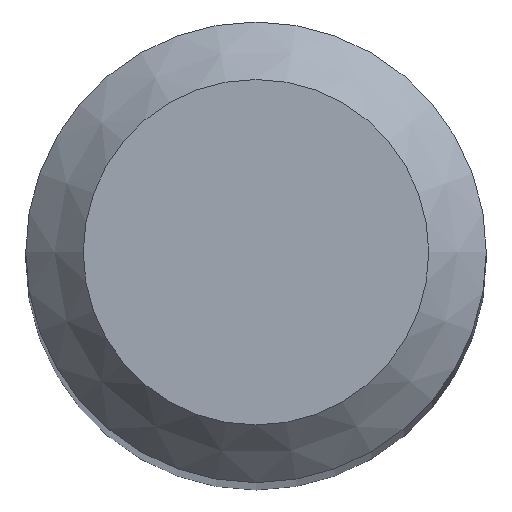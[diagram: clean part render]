
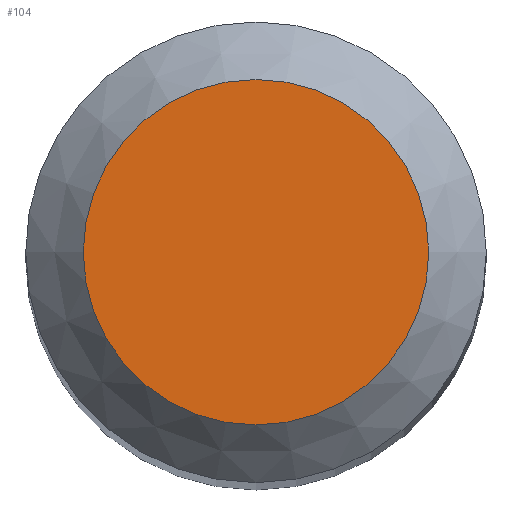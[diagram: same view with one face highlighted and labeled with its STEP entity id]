
A CAD part, top view. The second image highlights one B-rep face of the part: STEP entity #104.
In plain terms, the highlighted planar face has unit normal (0, 0, 1).
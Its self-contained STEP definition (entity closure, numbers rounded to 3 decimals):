
#88=CARTESIAN_POINT('',(1.5,0.0,70.0));
#89=DIRECTION('',(0.0,0.0,1.0));
#90=DIRECTION('',(1.0,0.0,0.0));
#91=AXIS2_PLACEMENT_3D('',#88,#89,#90);
#92=PLANE('',#91);
#93=CARTESIAN_POINT('',(-1.5,0.0,70.0));
#94=VERTEX_POINT('',#93);
#95=CARTESIAN_POINT('',(0.0,0.0,70.0));
#96=DIRECTION('',(0.0,0.0,-1.0));
#97=DIRECTION('',(-1.0,0.0,0.0));
#98=AXIS2_PLACEMENT_3D('',#95,#96,#97);
#99=CIRCLE('',#98,1.5);
#100=EDGE_CURVE('',#94,#94,#99,.T.);
#101=ORIENTED_EDGE('',*,*,#100,.F.);
#102=EDGE_LOOP('',(#101));
#103=FACE_OUTER_BOUND('',#102,.T.);
#104=ADVANCED_FACE('',(#103),#92,.T.);
